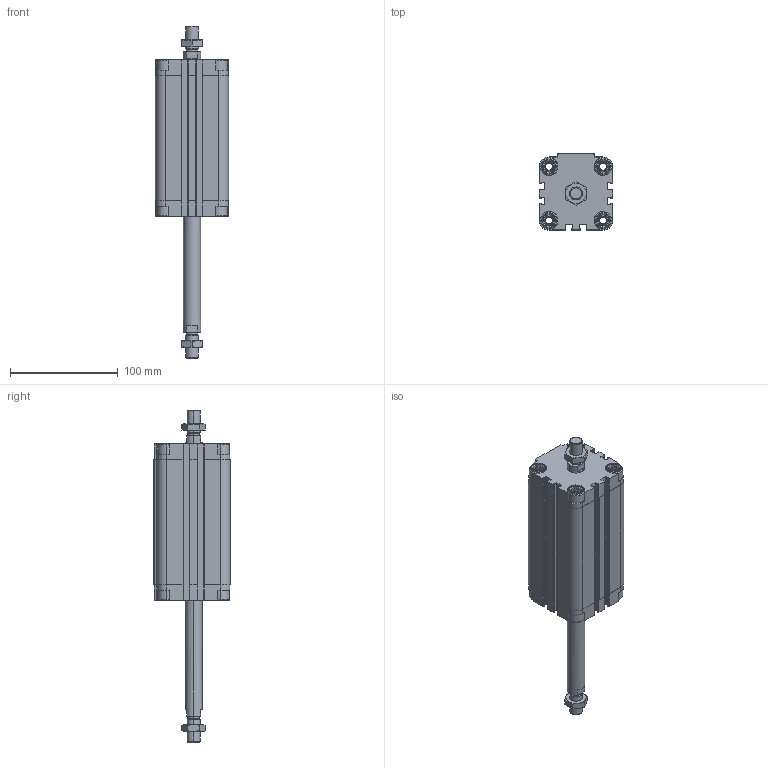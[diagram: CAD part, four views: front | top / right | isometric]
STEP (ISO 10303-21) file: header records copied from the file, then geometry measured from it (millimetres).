
FILE_DESCRIPTION (( 'STEP AP203' ), '1' );
FILE_NAME ('CDVU50-100M-P.STEP', '2020-07-21T15:19:47', ( '' ), ( '' ), 'SwSTEP 2.0', 'SolidWorks 2019', '' );
FILE_SCHEMA (( 'CONFIG_CONTROL_DESIGN' ));
Length unit declared in the file: millimetre
Products named in the file (1): CDVU50-100M-P
Bounding box: 68 x 71 x 308.5 mm (x, y, z)
Volume: 455756.6 mm3; surface area: 123008 mm2
Topology: 4 solids, 4 shells, 758 faces, 2004 edges, 1290 vertices
Faces by surface type: plane 438, cylinder 240, cone 64, torus 16
Entity records: 24259 total; most frequent: CARTESIAN_POINT 5321, ORIENTED_EDGE 4000, DIRECTION 3878, EDGE_CURVE 2000, AXIS2_PLACEMENT_3D 1335, VERTEX_POINT 1290, VECTOR 1208, LINE 1208
